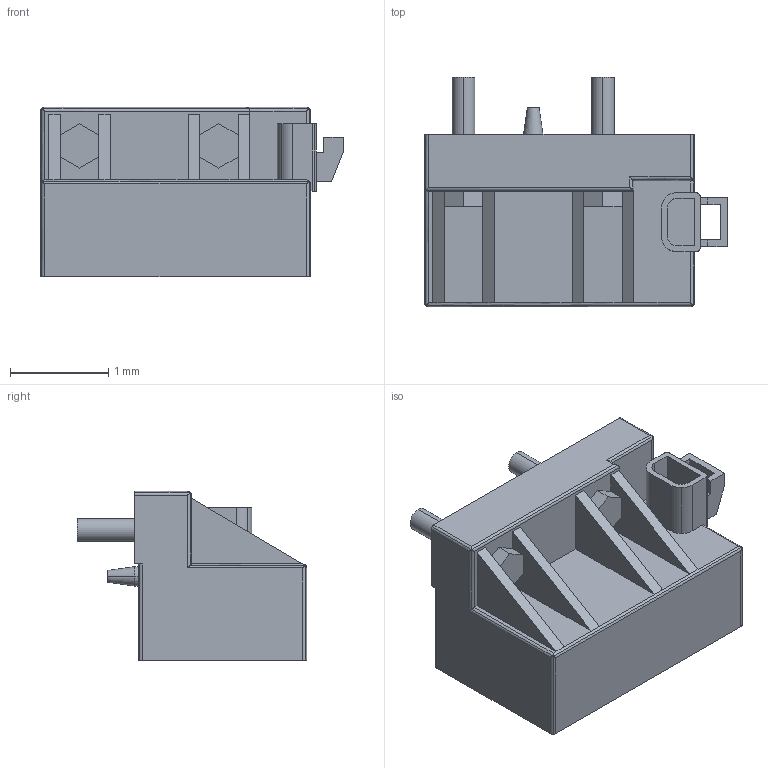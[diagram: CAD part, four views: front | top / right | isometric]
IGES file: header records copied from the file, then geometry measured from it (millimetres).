
Global section: file name: C:\Documents and Settings\Administrator\Desktop\Transfer Temp\temp\gyrochip.igs; native system: AutoDesk Inventor R2.0 ; preprocessor: AutoDesk Inventor Iges Exporter R2.0; author: No Author specified; organization: No Organization specified; date: 20020113.090800; units: millimetre
Bounding box: 3.08 x 2.34 x 1.73 mm (x, y, z)
Surface area: 32.4 mm2 (no closed solid volume)
Topology: 0 solids, 0 shells, 133 faces, 662 edges, 662 vertices
Faces by surface type: bspline 75, revolution 58
